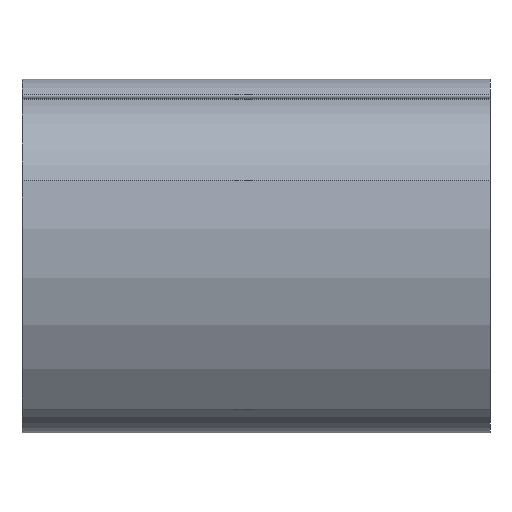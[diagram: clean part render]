
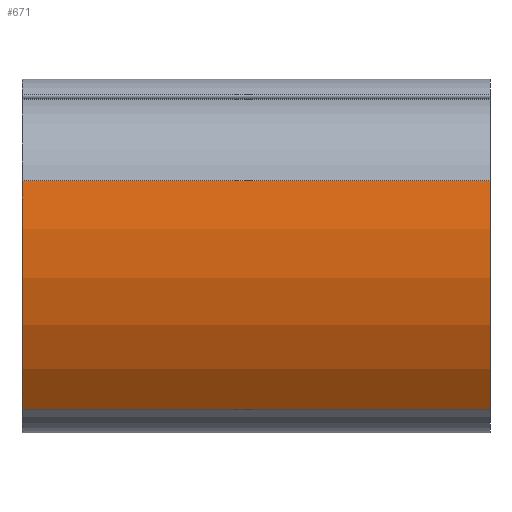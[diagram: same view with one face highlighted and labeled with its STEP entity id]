
A CAD part, front view. The second image highlights one B-rep face of the part: STEP entity #671.
In plain terms, the highlighted cylindrical face has radius 24 mm (diameter 48 mm), a partial arc.
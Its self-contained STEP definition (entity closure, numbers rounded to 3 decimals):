
#36=CARTESIAN_POINT('Line Origine',(0.,32.675,8.193)) ;
#40=CARTESIAN_POINT('Vertex',(-20.,32.675,8.193)) ;
#42=CARTESIAN_POINT('Vertex',(20.,32.675,8.193)) ;
#628=CARTESIAN_POINT('Vertex',(-20.,27.735,27.693)) ;
#631=CARTESIAN_POINT('Line Origine',(0.,27.735,27.693)) ;
#635=CARTESIAN_POINT('Vertex',(20.,27.735,27.693)) ;
#650=CARTESIAN_POINT('Axis2P3D Location',(0.,51.329,23.294)) ;
#655=CARTESIAN_POINT('Axis2P3D Location',(-20.,51.329,23.294)) ;
#660=CARTESIAN_POINT('Axis2P3D Location',(20.,51.329,23.294)) ;
#38=VECTOR('Line Direction',#37,1.) ;
#633=VECTOR('Line Direction',#632,1.) ;
#37=DIRECTION('Vector Direction',(1.,0.,0.)) ;
#632=DIRECTION('Vector Direction',(1.,0.,0.)) ;
#651=DIRECTION('Axis2P3D Direction',(1.,0.,0.)) ;
#652=DIRECTION('Axis2P3D XDirection',(0.,-0.983,0.183)) ;
#656=DIRECTION('Axis2P3D Direction',(1.,0.,0.)) ;
#661=DIRECTION('Axis2P3D Direction',(1.,0.,0.)) ;
#653=AXIS2_PLACEMENT_3D('Cylinder Axis2P3D',#650,#651,#652) ;
#657=AXIS2_PLACEMENT_3D('Circle Axis2P3D',#655,#656,$) ;
#662=AXIS2_PLACEMENT_3D('Circle Axis2P3D',#660,#661,$) ;
#39=LINE('Line',#36,#38) ;
#634=LINE('Line',#631,#633) ;
#658=CIRCLE('generated circle',#657,24.) ;
#663=CIRCLE('generated circle',#662,24.) ;
#654=CYLINDRICAL_SURFACE('generated cylinder',#653,24.) ;
#44=EDGE_CURVE('',#41,#43,#39,.T.) ;
#637=EDGE_CURVE('',#629,#636,#634,.T.) ;
#659=EDGE_CURVE('',#629,#41,#658,.T.) ;
#664=EDGE_CURVE('',#636,#43,#663,.T.) ;
#665=EDGE_LOOP('',(#666,#667,#668,#669)) ;
#666=ORIENTED_EDGE('',*,*,#637,.F.) ;
#667=ORIENTED_EDGE('',*,*,#659,.T.) ;
#668=ORIENTED_EDGE('',*,*,#44,.T.) ;
#669=ORIENTED_EDGE('',*,*,#664,.F.) ;
#41=VERTEX_POINT('',#40) ;
#43=VERTEX_POINT('',#42) ;
#629=VERTEX_POINT('',#628) ;
#636=VERTEX_POINT('',#635) ;
#671=ADVANCED_FACE('PartBody',(#670),#654,.T.) ;
#670=FACE_OUTER_BOUND('',#665,.T.) ;
